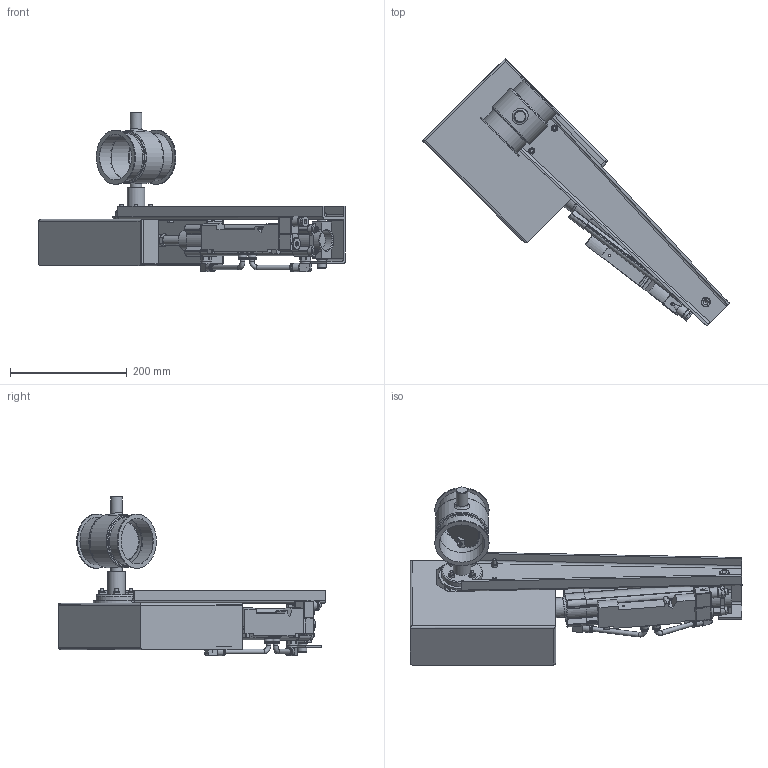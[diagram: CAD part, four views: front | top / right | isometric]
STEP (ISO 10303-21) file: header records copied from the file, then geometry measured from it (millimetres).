
FILE_DESCRIPTION((''),'2;1');
FILE_NAME('U:\Wolfgang\Marcel-3D\fertig\Kapitel 8\0821210.stp','2011-05-03T15:13:41',('TK1'),(''),'Autodesk Inventor 2010','Autodesk Inventor 2010','');
FILE_SCHEMA(('AUTOMOTIVE_DESIGN { 1 0 10303 214 1 1 1 1 }'));
Length unit declared in the file: millimetre
Products named in the file (38): 0821210; BuchseD15 70-50; Bolzen D15; Scheibe80b; F1 Zylindereinheit; 174412_ZNCF_40_6_0; 174412_ZNCF_40_6_01; 174412_ZNCF_40_6_02; 174412_ZNCF_40_6_03; 174412_ZNCF_40_6_04; 174412_ZNCF_40_6_05; 532743_DNCB_40_160_PPV_A_6_0; 532743_DNCB_40_160_PPV_A_6_01; 532743_DNCB_40_160_PPV_A_6_02; 537600_VUVB_S_B42_ZD_Q8_3AC1_6_0; 537600_VUVB_S_B42_ZD_Q8_3AC1_6_01; 537600_VUVB_S_B42_ZD_Q8_3AC1_6_02; 537600_VUVB_S_B42_ZD_Q8_3AC1_6_03; 4527_MSFG_24_42_50_60_6_0; 4527_MSFG_24_42_50_60_6_01; 4527_MSFG_24_42_50_60_6_02; 153414_QSRL_1_4_8_6_0; schlauch; Strebe d15; 0021088 d15; Bolzen; Schutzkasten; Kasten-a; Kasten-b; 13570_CRSG_M12x125_6_0; ISO 4018 M6 x 20; ISO 4032 M6; ISO 4018 M8 x 30; ISO 4027 M6 x 10; DIN 6912 M6 x 16; DIN 555 - ersetzt durch DIN EN 24034 M6; DIN EN ISO 4018 M6x25; 0811076
Assembly tree (50 placements, depth 4):
  0821210
    BuchseD15 70-50
    Bolzen D15  x2
    Scheibe80b
    F1 Zylindereinheit
      174412_ZNCF_40_6_0
        174412_ZNCF_40_6_01
        174412_ZNCF_40_6_02
        174412_ZNCF_40_6_03
        174412_ZNCF_40_6_04
        174412_ZNCF_40_6_05
      532743_DNCB_40_160_PPV_A_6_0
        532743_DNCB_40_160_PPV_A_6_01
        532743_DNCB_40_160_PPV_A_6_02
      537600_VUVB_S_B42_ZD_Q8_3AC1_6_0
        537600_VUVB_S_B42_ZD_Q8_3AC1_6_01
        537600_VUVB_S_B42_ZD_Q8_3AC1_6_02
        537600_VUVB_S_B42_ZD_Q8_3AC1_6_03
      4527_MSFG_24_42_50_60_6_0
        4527_MSFG_24_42_50_60_6_01
        4527_MSFG_24_42_50_60_6_02
      153414_QSRL_1_4_8_6_0  x2
      schlauch  x2
      Strebe d15
      0021088 d15
      Bolzen
      Schutzkasten
        Kasten-a
        Kasten-b
      13570_CRSG_M12x125_6_0
      ISO 4018 M6 x 20  x2
      ISO 4032 M6  x2
      ISO 4018 M8 x 30
      ISO 4027 M6 x 10  x2
    DIN 6912 M6 x 16  x2
    DIN 555 - ersetzt durch DIN EN 24034 M6  x4
    DIN EN ISO 4018 M6x25  x4
    0811076
Bounding box: 526.09 x 458.91 x 273.27 mm (x, y, z)
Volume: 1408752.9 mm3; surface area: 732648.8 mm2
Topology: 44 solids, 44 shells, 2636 faces, 6977 edges, 4529 vertices
Faces by surface type: plane 1948, cylinder 407, cone 223, bspline 45, torus 11, sphere 2
Full cylindrical faces by diameter (mm): 1 x3, 2.459 x1, 3 x4, 3.5 x1, 4 x1, 4.5 x1, 4.917 x8, 5 x2, 5.471 x2, 5.5 x1, 6 x37, 6.8 x4, 7.188 x1, 8 x10, 8.05 x1, 9 x2, 9.6 x2, 9.653 x1, 10 x8, 10.15 x2, 11.2 x2, 11.445 x2, 12 x6, 12.5 x1, 13.05 x2, 13.157 x2, 14 x6, 14.4 x4, 14.5 x2, 14.7 x6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
Entity records: 76908 total; most frequent: CARTESIAN_POINT 15222, ORIENTED_EDGE 12294, DIRECTION 11865, EDGE_CURVE 6147, VECTOR 4909, LINE 4909, VERTEX_POINT 4172, AXIS2_PLACEMENT_3D 3478
